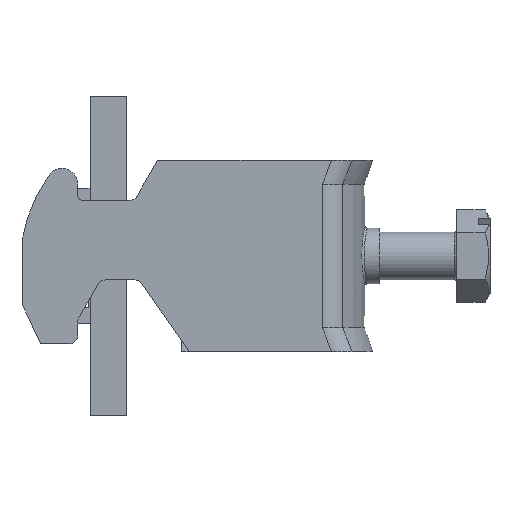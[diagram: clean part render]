
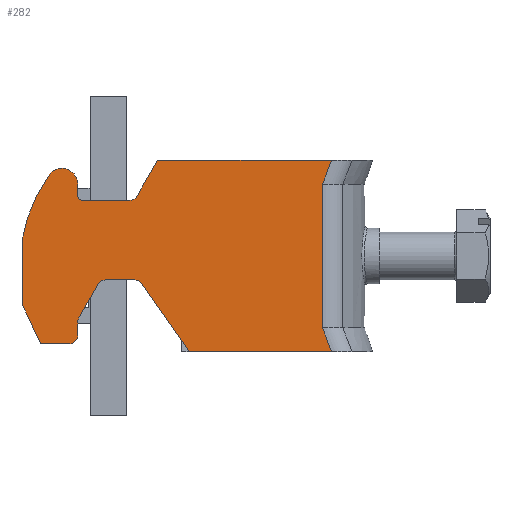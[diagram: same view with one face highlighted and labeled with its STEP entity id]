
A CAD part, left-side view. The second image highlights one B-rep face of the part: STEP entity #282.
In plain terms, the highlighted planar face has unit normal (-1, 0, 0).
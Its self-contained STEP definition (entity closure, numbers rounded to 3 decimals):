
#282=ADVANCED_FACE('',(#2196),#2198,.T.);
#2196=FACE_BOUND('',#2197,.T.);
#2197=EDGE_LOOP('',(#3866,#3867,#3868,#3869,#3870,#3871,#3872,#3873,#3874,#3875,
#3876,#3877,#3878,#3879,#3880,#3881,#3882,#3883,#3884,#3885,#3886,#3887,#3888,#3889));
#2198=PLANE('',#2199);
#2199=AXIS2_PLACEMENT_3D('',#2200,#2201,#2202);
#2200=CARTESIAN_POINT('',(-11.,43.,-9.));
#2201=DIRECTION('',(-1.,0.,0.));
#2202=DIRECTION('',(0.,-1.,0.));
#3866=ORIENTED_EDGE('',*,*,#4811,.T.);
#3867=ORIENTED_EDGE('',*,*,#4812,.T.);
#3868=ORIENTED_EDGE('',*,*,#4813,.T.);
#3869=ORIENTED_EDGE('',*,*,#4814,.T.);
#3870=ORIENTED_EDGE('',*,*,#4815,.T.);
#3871=ORIENTED_EDGE('',*,*,#4816,.T.);
#3872=ORIENTED_EDGE('',*,*,#4817,.T.);
#3873=ORIENTED_EDGE('',*,*,#4818,.T.);
#3874=ORIENTED_EDGE('',*,*,#4819,.T.);
#3875=ORIENTED_EDGE('',*,*,#4781,.T.);
#3876=ORIENTED_EDGE('',*,*,#4723,.T.);
#3877=ORIENTED_EDGE('',*,*,#4810,.T.);
#3878=ORIENTED_EDGE('',*,*,#4820,.T.);
#3879=ORIENTED_EDGE('',*,*,#4821,.F.);
#3880=ORIENTED_EDGE('',*,*,#4751,.T.);
#3881=ORIENTED_EDGE('',*,*,#4822,.T.);
#3882=ORIENTED_EDGE('',*,*,#4823,.T.);
#3883=ORIENTED_EDGE('',*,*,#4824,.T.);
#3884=ORIENTED_EDGE('',*,*,#4825,.T.);
#3885=ORIENTED_EDGE('',*,*,#4826,.T.);
#3886=ORIENTED_EDGE('',*,*,#4827,.T.);
#3887=ORIENTED_EDGE('',*,*,#4828,.T.);
#3888=ORIENTED_EDGE('',*,*,#4829,.T.);
#3889=ORIENTED_EDGE('',*,*,#4830,.F.);
#4723=EDGE_CURVE('',#5208,#5224,#5226,.T.);
#4751=EDGE_CURVE('',#5278,#5276,#5279,.T.);
#4781=EDGE_CURVE('',#5335,#5208,#5336,.F.);
#4810=EDGE_CURVE('',#5224,#5384,#5386,.T.);
#4811=EDGE_CURVE('',#5387,#5388,#5389,.F.);
#4812=EDGE_CURVE('',#5388,#5390,#5391,.F.);
#4813=EDGE_CURVE('',#5390,#5392,#5393,.T.);
#4814=EDGE_CURVE('',#5392,#5394,#5395,.F.);
#4815=EDGE_CURVE('',#5394,#5396,#5397,.T.);
#4816=EDGE_CURVE('',#5396,#5398,#5399,.F.);
#4817=EDGE_CURVE('',#5398,#5400,#5401,.T.);
#4818=EDGE_CURVE('',#5400,#5402,#5403,.F.);
#4819=EDGE_CURVE('',#5402,#5335,#5404,.T.);
#4820=EDGE_CURVE('',#5384,#5405,#5406,.T.);
#4821=EDGE_CURVE('',#5278,#5405,#5407,.T.);
#4822=EDGE_CURVE('',#5276,#5408,#5409,.F.);
#4823=EDGE_CURVE('',#5408,#5410,#5411,.T.);
#4824=EDGE_CURVE('',#5410,#5412,#5413,.F.);
#4825=EDGE_CURVE('',#5412,#5414,#5415,.T.);
#4826=EDGE_CURVE('',#5414,#5416,#5417,.F.);
#4827=EDGE_CURVE('',#5416,#5418,#5419,.T.);
#4828=EDGE_CURVE('',#5418,#5420,#5421,.T.);
#4829=EDGE_CURVE('',#5420,#5422,#5423,.T.);
#4830=EDGE_CURVE('',#5387,#5422,#5424,.T.);
#5208=VERTEX_POINT('',#6215);
#5224=VERTEX_POINT('',#6250);
#5226=LINE('',#6255,#6256);
#5276=VERTEX_POINT('',#6370);
#5278=VERTEX_POINT('',#6374);
#5279=LINE('',#6375,#6376);
#5335=VERTEX_POINT('',#6557);
#5336=LINE('',#6558,#6559);
#5384=VERTEX_POINT('',#6672);
#5386=LINE('',#6677,#6678);
#5387=VERTEX_POINT('',#6680);
#5388=VERTEX_POINT('',#6681);
#5389=LINE('',#6682,#6683);
#5390=VERTEX_POINT('',#6685);
#5391=LINE('',#6686,#6687);
#5392=VERTEX_POINT('',#6689);
#5393=CIRCLE('',#6690,1.);
#5394=VERTEX_POINT('',#6694);
#5395=LINE('',#6695,#6696);
#5396=VERTEX_POINT('',#6698);
#5397=CIRCLE('',#6699,1.);
#5398=VERTEX_POINT('',#6703);
#5399=LINE('',#6704,#6705);
#5400=VERTEX_POINT('',#6707);
#5401=CIRCLE('',#6708,1.);
#5402=VERTEX_POINT('',#6712);
#5403=LINE('',#6713,#6714);
#5404=CIRCLE('',#6716,1.);
#5405=VERTEX_POINT('',#6720);
#5406=LINE('',#6721,#6722);
#5407=LINE('',#6724,#6725);
#5408=VERTEX_POINT('',#6727);
#5409=LINE('',#6728,#6729);
#5410=VERTEX_POINT('',#6731);
#5411=CIRCLE('',#6732,1.);
#5412=VERTEX_POINT('',#6736);
#5413=LINE('',#6737,#6738);
#5414=VERTEX_POINT('',#6740);
#5415=CIRCLE('',#6741,0.6);
#5416=VERTEX_POINT('',#6745);
#5417=LINE('',#6746,#6747);
#5418=VERTEX_POINT('',#6749);
#5419=CIRCLE('',#6750,2.);
#5420=VERTEX_POINT('',#6754);
#5421=CIRCLE('',#6755,2.);
#5422=VERTEX_POINT('',#6759);
#5423=CIRCLE('',#6760,20.);
#5424=LINE('',#6764,#6765);
#6215=CARTESIAN_POINT('',(-11.,22.007,-12.));
#6250=CARTESIAN_POINT('',(-11.,4.179,-12.));
#6255=CARTESIAN_POINT('',(-11.,22.007,-12.));
#6256=VECTOR('',#6257,1.);
#6257=DIRECTION('',(0.,-1.,0.));
#6370=CARTESIAN_POINT('',(-11.,26.,12.));
#6374=CARTESIAN_POINT('',(-11.,4.179,12.));
#6375=CARTESIAN_POINT('',(-11.,4.179,12.));
#6376=VECTOR('',#6377,1.);
#6377=DIRECTION('',(0.,1.,0.));
#6557=CARTESIAN_POINT('',(-11.,28.011,-3.426));
#6558=CARTESIAN_POINT('',(-11.,22.007,-12.));
#6559=VECTOR('',#6560,1.);
#6560=DIRECTION('',(0.,0.574,0.819));
#6672=CARTESIAN_POINT('',(-11.,5.311,-9.));
#6677=CARTESIAN_POINT('',(-11.,4.179,-12.));
#6678=VECTOR('',#6679,1.);
#6679=DIRECTION('',(0.,0.353,0.936));
#6680=CARTESIAN_POINT('',(-11.,43.,-6.));
#6681=CARTESIAN_POINT('',(-11.,40.668,-11.));
#6682=CARTESIAN_POINT('',(-11.,40.668,-11.));
#6683=VECTOR('',#6684,1.);
#6684=DIRECTION('',(0.,0.423,0.906));
#6685=CARTESIAN_POINT('',(-11.,37.,-11.));
#6686=CARTESIAN_POINT('',(-11.,37.,-11.));
#6687=VECTOR('',#6688,1.);
#6688=DIRECTION('',(0.,1.,0.));
#6689=CARTESIAN_POINT('',(-11.,36.,-10.));
#6690=AXIS2_PLACEMENT_3D('',#6691,#6692,#6693);
#6691=CARTESIAN_POINT('',(-11.,37.,-10.));
#6692=DIRECTION('',(-1.,0.,0.));
#6693=DIRECTION('',(0.,0.,-1.));
#6694=CARTESIAN_POINT('',(-11.,36.,-8.268));
#6695=CARTESIAN_POINT('',(-11.,36.,-8.268));
#6696=VECTOR('',#6697,1.);
#6697=DIRECTION('',(0.,0.,-1.));
#6698=CARTESIAN_POINT('',(-11.,35.866,-7.768));
#6699=AXIS2_PLACEMENT_3D('',#6700,#6701,#6702);
#6700=CARTESIAN_POINT('',(-11.,35.,-8.268));
#6701=DIRECTION('',(1.,0.,0.));
#6702=DIRECTION('',(0.,1.,0.));
#6703=CARTESIAN_POINT('',(-11.,33.402,-3.5));
#6704=CARTESIAN_POINT('',(-11.,33.402,-3.5));
#6705=VECTOR('',#6706,1.);
#6706=DIRECTION('',(0.,0.5,-0.866));
#6707=CARTESIAN_POINT('',(-11.,32.536,-3.));
#6708=AXIS2_PLACEMENT_3D('',#6709,#6710,#6711);
#6709=CARTESIAN_POINT('',(-11.,32.536,-4.));
#6710=DIRECTION('',(1.,0.,0.));
#6711=DIRECTION('',(0.,0.866,0.5));
#6712=CARTESIAN_POINT('',(-11.,28.83,-3.));
#6713=CARTESIAN_POINT('',(-11.,28.83,-3.));
#6714=VECTOR('',#6715,1.);
#6715=DIRECTION('',(0.,1.,0.));
#6716=AXIS2_PLACEMENT_3D('',#6717,#6718,#6719);
#6717=CARTESIAN_POINT('',(-11.,28.83,-4.));
#6718=DIRECTION('',(1.,0.,0.));
#6719=DIRECTION('',(0.,0.,1.));
#6720=CARTESIAN_POINT('',(-11.,5.311,9.));
#6721=CARTESIAN_POINT('',(-11.,5.311,-9.));
#6722=VECTOR('',#6723,1.);
#6723=DIRECTION('',(0.,0.,1.));
#6724=CARTESIAN_POINT('',(-11.,4.179,12.));
#6725=VECTOR('',#6726,1.);
#6726=DIRECTION('',(0.,0.353,-0.936));
#6727=CARTESIAN_POINT('',(-11.,28.598,7.5));
#6728=CARTESIAN_POINT('',(-11.,28.598,7.5));
#6729=VECTOR('',#6730,1.);
#6730=DIRECTION('',(0.,-0.5,0.866));
#6731=CARTESIAN_POINT('',(-11.,29.464,7.));
#6732=AXIS2_PLACEMENT_3D('',#6733,#6734,#6735);
#6733=CARTESIAN_POINT('',(-11.,29.464,8.));
#6734=DIRECTION('',(1.,0.,0.));
#6735=DIRECTION('',(0.,-0.866,-0.5));
#6736=CARTESIAN_POINT('',(-11.,35.4,7.));
#6737=CARTESIAN_POINT('',(-11.,35.4,7.));
#6738=VECTOR('',#6739,1.);
#6739=DIRECTION('',(0.,-1.,0.));
#6740=CARTESIAN_POINT('',(-11.,36.,7.6));
#6741=AXIS2_PLACEMENT_3D('',#6742,#6743,#6744);
#6742=CARTESIAN_POINT('',(-11.,35.4,7.6));
#6743=DIRECTION('',(1.,0.,0.));
#6744=DIRECTION('',(0.,0.,-1.));
#6745=CARTESIAN_POINT('',(-11.,36.,9.));
#6746=CARTESIAN_POINT('',(-11.,36.,9.));
#6747=VECTOR('',#6748,1.);
#6748=DIRECTION('',(0.,0.,-1.));
#6749=CARTESIAN_POINT('',(-11.,38.,11.));
#6750=AXIS2_PLACEMENT_3D('',#6751,#6752,#6753);
#6751=CARTESIAN_POINT('',(-11.,38.,9.));
#6752=DIRECTION('',(-1.,0.,0.));
#6753=DIRECTION('',(0.,-1.,0.));
#6754=CARTESIAN_POINT('',(-11.,39.608,10.157));
#6755=AXIS2_PLACEMENT_3D('',#6756,#6757,#6758);
#6756=CARTESIAN_POINT('',(-11.,37.976,9.));
#6757=DIRECTION('',(-1.,0.,0.));
#6758=DIRECTION('',(0.,0.012,1.));
#6759=CARTESIAN_POINT('',(-11.,43.,1.987));
#6760=AXIS2_PLACEMENT_3D('',#6761,#6762,#6763);
#6761=CARTESIAN_POINT('',(-11.,23.29,-1.408));
#6762=DIRECTION('',(-1.,0.,0.));
#6763=DIRECTION('',(0.,0.816,0.578));
#6764=CARTESIAN_POINT('',(-11.,43.,-6.));
#6765=VECTOR('',#6766,1.);
#6766=DIRECTION('',(0.,0.,1.));
